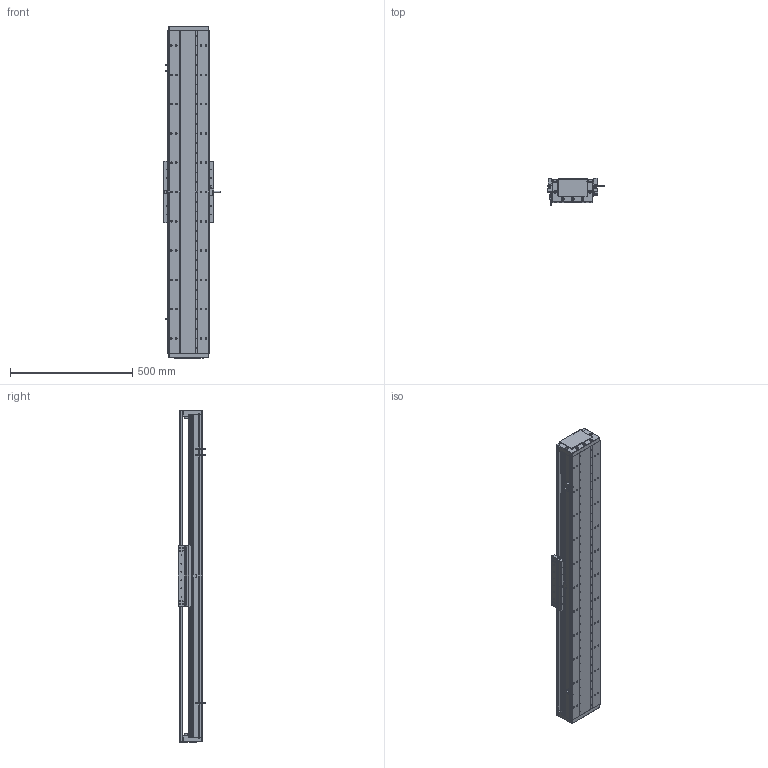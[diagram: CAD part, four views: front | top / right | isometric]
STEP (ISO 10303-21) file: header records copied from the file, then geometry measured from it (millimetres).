
FILE_DESCRIPTION (( 'STEP AP203' ), '1' );
FILE_NAME ('DA-C165-C3-T1020-C010-0.2 直线电机.STEP', '2023-06-13T08:42:47', ( '微软用户' ), ( '微软中国' ), 'SwSTEP 2.0', 'SolidWorks 2019', '' );
FILE_SCHEMA (( 'CONFIG_CONTROL_DESIGN' ));
Length unit declared in the file: millimetre
Products named in the file (15): 复件 DMA-010-0.2 读数头^DA-C165-C3-T-C010-0.2-N 直线电机; 葩璃 DA95-GT-T-00^IU-CU165-L 菁釱絳寢_T; 葩璃 CKM03-W075-C1C2-TP-3.0^DA-C165-C3-T-C010-0.2-N 眻盄萇儂; 葩璃 PM-T45^DA-C165-C3-T-C010-0.2-N 眻盄萇儂; 复件 DA165-GYP-00 光电感应片^DA-C165-C3-T-C010-0.2-N 直线电机; 复件 DA165-DG-H-N-00 端盖^DA-C165-C3-T-C010-0.2-N 直线电机; 复件 CU165 底座^IU-CU165-L 底座导轨_L1320; 葩璃 CKM01-W075-TRL^DA-C165-C3-T-C010-0.2-N 眻盄萇儂; IU-CU165-L 菁釱絳寢; 珨极趙賑雄怢啣C3-wf; 复件 DA95-HXJ-00 缓冲橡胶^DA-C165-C3-T-C010-0.2-N 直线电机; 复件 XD-U-02L 磁栅尺^DA-C165-C3-T-C010-0.2-N 直线电机_T; 复件 六角薄螺母 M3^DA-C165-C3-T-C010-0.2-N 直线电机_GB_FASTENER_NUT_STNAB M3-C; DA-C165-C3-T1020-C010-0.2 眻盄萇儂; 复件 DA165-T-002-00 盖板^DA-C165-C3-T-C010-0.2-N 直线电机_0840-002-00
Assembly tree (30 placements, depth 3):
  DA-C165-C3-T1020-C010-0.2 眻盄萇儂
    IU-CU165-L 菁釱絳寢
      复件 CU165 底座^IU-CU165-L 底座导轨_L1320
      葩璃 DA95-GT-T-00^IU-CU165-L 菁釱絳寢_T  x4
    复件 DA165-DG-H-N-00 端盖^DA-C165-C3-T-C010-0.2-N 直线电机  x2
    复件 DA95-HXJ-00 缓冲橡胶^DA-C165-C3-T-C010-0.2-N 直线电机  x4
    复件 DA165-T-002-00 盖板^DA-C165-C3-T-C010-0.2-N 直线电机_0840-002-00
    复件 XD-U-02L 磁栅尺^DA-C165-C3-T-C010-0.2-N 直线电机_T
    葩璃 PM-T45^DA-C165-C3-T-C010-0.2-N 眻盄萇儂  x3
    葩璃 CKM01-W075-TRL^DA-C165-C3-T-C010-0.2-N 眻盄萇儂
    复件 DA165-GYP-00 光电感应片^DA-C165-C3-T-C010-0.2-N 直线电机
    复件 DMA-010-0.2 读数头^DA-C165-C3-T-C010-0.2-N 直线电机
    葩璃 CKM03-W075-C1C2-TP-3.0^DA-C165-C3-T-C010-0.2-N 眻盄萇儂
    复件 六角薄螺母 M3^DA-C165-C3-T-C010-0.2-N 直线电机_GB_FASTENER_NUT_STNAB M3-C  x8
    珨极趙賑雄怢啣C3-wf
Bounding box: 233 x 111.45 x 1360 mm (x, y, z)
Volume: 9952874.6 mm3; surface area: 2709281.8 mm2
Topology: 68 solids, 118 shells, 3691 faces, 10020 edges, 6238 vertices
Faces by surface type: cylinder 1898, plane 1183, cone 552, torus 54, sphere 4
Entity records: 112005 total; most frequent: CARTESIAN_POINT 27232, DIRECTION 17544, ORIENTED_EDGE 17094, EDGE_CURVE 8547, AXIS2_PLACEMENT_3D 6666, VERTEX_POINT 5526, LINE 4212, VECTOR 4212
